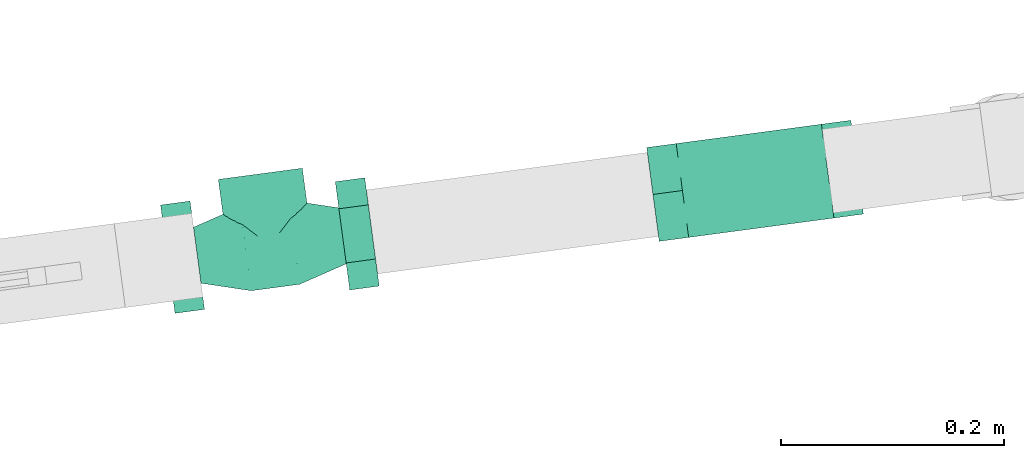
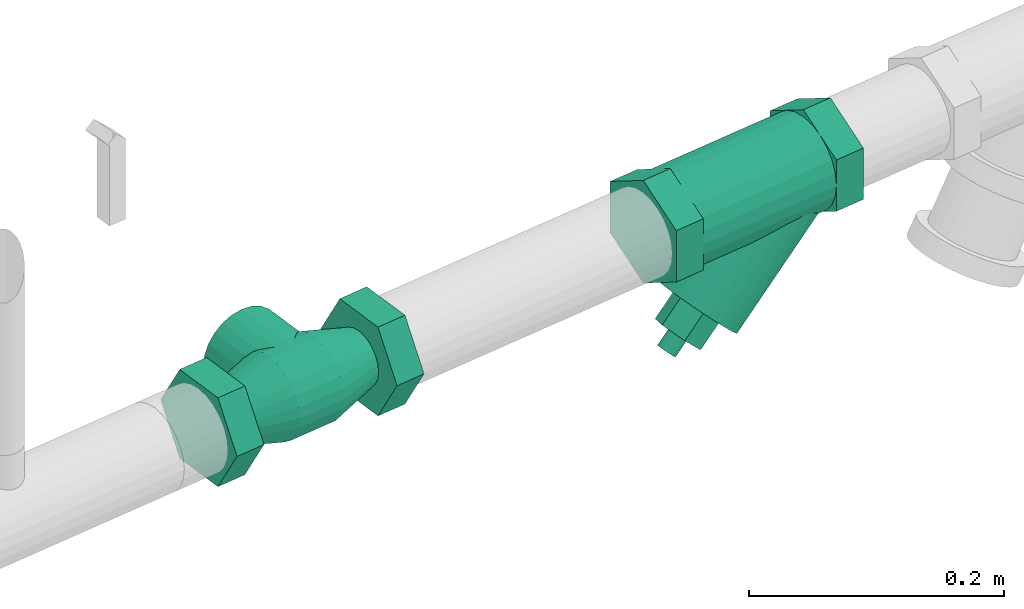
# One storey, part 326 of 374: 1 distribution control element, 1 flow controller.
"""IFC2X3 building model written with IfcOpenShell, lengths in metres."""

from ifc_helpers import new_model, si_unit, direction, origin, place, context, subcontext, project, spatial, open_shell, surface_model, source, transform, mapped, element, save


model = new_model("IFC2X3")

# Units and contexts
model_context = context("Model", 3, precision=1e-05, world=origin(), true_north=direction((-0.4480736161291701, 0.8939966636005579)))
body_context = subcontext(model_context, "Body", "Model", "MODEL_VIEW")
ifc_project = project(units=[si_unit("LENGTHUNIT", "METRE"), si_unit("AREAUNIT", "SQUARE_METRE"), si_unit("VOLUMEUNIT", "CUBIC_METRE"), si_unit("PLANEANGLEUNIT", "RADIAN"), si_unit("THERMODYNAMICTEMPERATUREUNIT", "KELVIN"), si_unit("MASSUNIT", "GRAM", prefix="KILO"), si_unit("TIMEUNIT", "SECOND")], contexts=[model_context])

# Site, building, storey
site_placement = place(None, origin())
site = spatial("IfcSite", under=ifc_project, at=site_placement, Name="Site 1", CompositionType="ELEMENT")
building_placement = place(site_placement, origin())
building = spatial("IfcBuilding", under=site, at=building_placement, Name="Undefined", CompositionType="ELEMENT")
storey_placement = place(building_placement, origin())
storey = spatial("IfcBuildingStorey", under=building, at=storey_placement, Name="Rez de chauss\x8ee", CompositionType="ELEMENT", Elevation=0.0)

# Flow controller
shared_shape_1 = source(origin(), body_context, "Body", "SurfaceModel", [
    surface_model("IfcFaceBasedSurfaceModel", [(0.0, 0.0, 0.0), (0.04907477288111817, 0.0, 0.0), (0.04907477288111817, 0.026699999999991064, 0.0), (0.0, 0.026699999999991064, 0.0), (-0.02453738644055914, 1.4210854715e-14, -0.042499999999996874), (-0.02453738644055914, 0.026699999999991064, -0.042500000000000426), (0.0, 0.0, -0.08500000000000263), (0.0, 0.026699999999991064, -0.0850000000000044), (0.04907477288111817, 0.0, -0.08500000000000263), (0.04907477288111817, 0.026699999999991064, -0.0850000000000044), (0.0736121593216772, 1.4210854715e-14, -0.042499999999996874), (0.0736121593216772, 0.026699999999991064, -0.042500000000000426), (0.06703738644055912, 0.13432165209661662, -0.042500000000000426), (0.06588065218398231, 0.13133135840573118, -0.0326519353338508), (0.09248630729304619, 0.15793701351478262, -0.0326519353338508), (0.09156952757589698, 0.15885379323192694, -0.0425000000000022), (0.06254132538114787, 0.12261630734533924, -0.023475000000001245), (0.09517416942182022, 0.15524915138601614, -0.023475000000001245), (0.057436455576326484, 0.10895989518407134, -0.015594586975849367), (0.09944994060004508, 0.1509733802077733, -0.015594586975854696), (0.05137761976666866, 0.09175647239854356, -0.00954773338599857), (0.10502223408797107, 0.14540108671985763, -0.009547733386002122), (0.04587823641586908, 0.07327894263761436, -0.005746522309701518), (0.11151130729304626, 0.13891201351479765, -0.005746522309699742), (0.0434700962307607, 0.056943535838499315, -0.004450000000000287), (0.11847494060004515, 0.1319483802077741, -0.004450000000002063), (0.04587823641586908, 0.04542440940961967, -0.005746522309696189), (0.12543857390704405, 0.1249847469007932, -0.005746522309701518), (0.05137761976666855, 0.037945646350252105, -0.009547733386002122), (0.13192764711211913, 0.118495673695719, -0.009547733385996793), (0.057436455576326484, 0.03285989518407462, -0.015594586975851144), (0.13749994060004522, 0.11292338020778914, -0.01559458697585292), (0.06254132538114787, 0.02941322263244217, -0.023474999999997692), (0.1417757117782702, 0.10864760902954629, -0.02347500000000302), (0.06588065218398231, 0.02737682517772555, -0.032651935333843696), (0.14446357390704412, 0.1059597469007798, -0.03265193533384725), (0.06703738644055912, 0.026699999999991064, -0.042499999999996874), (0.14538035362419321, 0.10504296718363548, -0.042499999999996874), (0.06588065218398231, 0.02737682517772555, -0.052348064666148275), (0.14446357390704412, 0.1059597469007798, -0.05234806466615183), (0.06254132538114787, 0.02941322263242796, -0.06152499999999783), (0.1417757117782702, 0.1086476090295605, -0.06152500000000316), (0.057436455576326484, 0.032859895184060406, -0.06940541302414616), (0.13749994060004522, 0.11292338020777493, -0.06940541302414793), (0.05137761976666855, 0.037945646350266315, -0.07545226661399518), (0.13192764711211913, 0.1184956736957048, -0.07545226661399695), (0.04587823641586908, 0.04542440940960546, -0.07925347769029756), (0.12543857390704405, 0.12498474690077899, -0.07925347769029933), (0.0434700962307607, 0.056943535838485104, -0.08055000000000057), (0.11847494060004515, 0.13194838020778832, -0.08055000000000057), (0.04587823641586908, 0.07327894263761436, -0.07925347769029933), (0.11151130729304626, 0.13891201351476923, -0.07925347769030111), (0.05137761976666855, 0.09175647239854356, -0.07545226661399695), (0.10502223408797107, 0.14540108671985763, -0.07545226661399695), (0.057436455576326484, 0.10895989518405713, -0.06940541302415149), (0.09944994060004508, 0.1509733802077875, -0.06940541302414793), (0.06254132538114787, 0.12261630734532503, -0.061525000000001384), (0.09517416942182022, 0.15524915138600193, -0.06152499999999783), (0.06588065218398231, 0.13133135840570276, -0.052348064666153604), (0.09248630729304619, 0.15793701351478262, -0.05234806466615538), (0.024537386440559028, 0.026699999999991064, -0.08500000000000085), (0.013537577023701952, 0.026700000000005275, -0.08355184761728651), (0.013537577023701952, 0.158299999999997, -0.08355184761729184), (0.024537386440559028, 0.158299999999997, -0.08500000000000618), (0.003287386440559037, 0.026699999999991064, -0.07930607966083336), (0.003287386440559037, 0.158299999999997, -0.07930607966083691), (-0.005514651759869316, 0.026700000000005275, -0.07255203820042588), (-0.005514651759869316, 0.158299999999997, -0.07255203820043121), (-0.01226869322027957, 0.026700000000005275, -0.06374999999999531), (-0.01226869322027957, 0.158299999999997, -0.06375000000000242), (-0.01651446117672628, 0.026700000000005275, -0.05349980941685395), (-0.01651446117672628, 0.1582999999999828, -0.05349980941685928), (-0.017962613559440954, 0.026699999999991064, -0.042499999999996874), (-0.017962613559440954, 0.158299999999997, -0.0425000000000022), (-0.01651446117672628, 0.026699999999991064, -0.031500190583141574), (-0.01651446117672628, 0.1583000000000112, -0.03150019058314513), (-0.012268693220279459, 0.026699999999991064, -0.021249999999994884), (-0.012268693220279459, 0.158299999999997, -0.021250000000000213), (-0.005514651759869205, 0.026700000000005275, -0.012447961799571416), (-0.005514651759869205, 0.1583000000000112, -0.012447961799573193), (0.003287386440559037, 0.026700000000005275, -0.005693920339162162), (0.003287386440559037, 0.1583000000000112, -0.005693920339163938), (0.013537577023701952, 0.026699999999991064, -0.0014481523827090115), (0.013537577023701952, 0.158299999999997, -0.001448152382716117), (0.024537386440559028, 0.026700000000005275, 5.329070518e-15), (0.024537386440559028, 0.158299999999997, 0.0), (0.035537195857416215, 0.026699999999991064, -0.0014481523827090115), (0.035537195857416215, 0.158299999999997, -0.001448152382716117), (0.04578738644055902, 0.026700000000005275, -0.005693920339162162), (0.04578738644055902, 0.1583000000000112, -0.005693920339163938), (0.05458942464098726, 0.026700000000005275, -0.012447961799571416), (0.05458942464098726, 0.1583000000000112, -0.012447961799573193), (0.06134346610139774, 0.026699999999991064, -0.021249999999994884), (0.06134346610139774, 0.158299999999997, -0.021250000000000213), (0.06558923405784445, 0.026699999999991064, -0.031500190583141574), (0.06558923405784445, 0.1583000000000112, -0.03150019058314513), (0.06703738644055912, 0.158299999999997, -0.0425000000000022), (0.06558923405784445, 0.026700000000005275, -0.05349980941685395), (0.06558923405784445, 0.1582999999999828, -0.05349980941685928), (0.061343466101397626, 0.026700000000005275, -0.06374999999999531), (0.061343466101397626, 0.158299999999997, -0.06375000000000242), (0.05458942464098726, 0.026700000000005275, -0.07255203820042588), (0.05458942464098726, 0.158299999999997, -0.07255203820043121), (0.04578738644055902, 0.026699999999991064, -0.07930607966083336), (0.04578738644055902, 0.158299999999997, -0.07930607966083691), (0.035537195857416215, 0.026700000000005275, -0.08355184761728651), (0.035537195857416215, 0.158299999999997, -0.08355184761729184), (0.13735469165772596, 0.15082813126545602, -0.05100000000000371), (0.13579908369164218, 0.1523837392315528, -0.05071036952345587), (0.1469713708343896, 0.16355602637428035, -0.05071036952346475), (0.14852697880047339, 0.162000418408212, -0.051000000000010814), (0.13434948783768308, 0.15383333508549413, -0.049861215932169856), (0.1455217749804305, 0.1650056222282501, -0.04986121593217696), (0.13310469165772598, 0.155078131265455, -0.04851040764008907), (0.1442769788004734, 0.16625041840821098, -0.04851040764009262), (0.13214952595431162, 0.1560332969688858, -0.046750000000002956), (0.14332181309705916, 0.16720558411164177, -0.04675000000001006), (0.1315490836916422, 0.15663373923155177, -0.04469996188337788), (0.14272137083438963, 0.16780602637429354, -0.04469996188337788), (0.1313442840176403, 0.15683853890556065, -0.042500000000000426), (0.14251657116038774, 0.16801082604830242, -0.04250000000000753), (0.1315490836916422, 0.15663373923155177, -0.04030003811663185), (0.14272137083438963, 0.16780602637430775, -0.040300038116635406), (0.13214952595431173, 0.1560332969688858, -0.03824999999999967), (0.14332181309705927, 0.16720558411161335, -0.038250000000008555), (0.13310469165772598, 0.1550781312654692, -0.036489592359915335), (0.1442769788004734, 0.16625041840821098, -0.03648959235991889), (0.13434948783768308, 0.15383333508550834, -0.03513878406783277), (0.1455217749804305, 0.1650056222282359, -0.035138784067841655), (0.13579908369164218, 0.1523837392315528, -0.03428963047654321), (0.1469713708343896, 0.16355602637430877, -0.03428963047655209), (0.13735469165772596, 0.15082813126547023, -0.034000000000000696), (0.14852697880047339, 0.162000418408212, -0.03400000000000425), (0.13891029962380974, 0.14927252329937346, -0.03428963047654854), (0.15008258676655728, 0.16044481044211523, -0.03428963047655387), (0.14035989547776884, 0.14782292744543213, -0.03513878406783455), (0.15153218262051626, 0.15899521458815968, -0.0351387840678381), (0.14160469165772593, 0.14657813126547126, -0.036489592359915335), (0.15277697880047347, 0.15775041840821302, -0.03648959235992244), (0.1425598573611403, 0.14562296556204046, -0.03825000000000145), (0.15373214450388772, 0.15679525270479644, -0.038250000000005), (0.14316029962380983, 0.14502252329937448, -0.04030003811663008), (0.15433258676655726, 0.15619481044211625, -0.04030003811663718), (0.1433650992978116, 0.1448177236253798, -0.0425000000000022), (0.15453738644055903, 0.15599001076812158, -0.04250000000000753), (0.14316029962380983, 0.14502252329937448, -0.044699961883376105), (0.15433258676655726, 0.15619481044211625, -0.04469996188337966), (0.1425598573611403, 0.14562296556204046, -0.046750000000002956), (0.15373214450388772, 0.15679525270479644, -0.046750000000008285), (0.14160469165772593, 0.14657813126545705, -0.04851040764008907), (0.15277697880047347, 0.1577504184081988, -0.048510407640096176), (0.14035989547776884, 0.14782292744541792, -0.04986121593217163), (0.15153218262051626, 0.15899521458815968, -0.04986121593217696), (0.13891029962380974, 0.14927252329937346, -0.05071036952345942), (0.15008258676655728, 0.16044481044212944, -0.05071036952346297), (0.13735469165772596, 0.15082813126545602, -0.04250000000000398), (0.14852697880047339, 0.162000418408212, -0.04250000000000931), (0.12958776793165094, 0.1585950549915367, -0.023475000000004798), (0.12182084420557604, 0.16636197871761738, -0.042500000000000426), (0.10294109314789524, 0.14748222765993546, -0.0425000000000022), (0.11070801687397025, 0.13971530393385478, -0.02347500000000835), (0.14512161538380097, 0.14306120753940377, -0.02347500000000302), (0.12624186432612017, 0.12418145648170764, -0.023475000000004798), (0.152888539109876, 0.13529428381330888, -0.0425000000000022), (0.13400878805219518, 0.11641453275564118, -0.0425000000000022), (0.14512161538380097, 0.14306120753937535, -0.061525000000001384), (0.12624186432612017, 0.12418145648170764, -0.061525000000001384), (0.12958776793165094, 0.1585950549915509, -0.06152499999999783), (0.11070801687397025, 0.139715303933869, -0.06152499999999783), (0.0, 0.158299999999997, -7.105427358e-15), (0.04907477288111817, 0.158299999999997, -7.105427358e-15), (0.04907477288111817, 0.18500000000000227, -7.105427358e-15), (0.0, 0.18500000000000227, -7.105427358e-15), (-0.02453738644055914, 0.158299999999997, -0.0425000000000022), (-0.02453738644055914, 0.18499999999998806, -0.04250000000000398), (0.0, 0.1583000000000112, -0.08500000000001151), (0.0, 0.18499999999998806, -0.08500000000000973), (0.04907477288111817, 0.1583000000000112, -0.08500000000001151), (0.04907477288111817, 0.18499999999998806, -0.08500000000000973), (0.0736121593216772, 0.158299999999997, -0.0425000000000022), (0.0736121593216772, 0.18499999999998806, -0.04250000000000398)], [open_shell([[[0, 1, 2, 3]], [[4, 0, 3, 5]], [[6, 4, 5, 7]], [[8, 6, 7, 9]], [[10, 8, 9, 11]], [[1, 10, 11, 2]], [[1, 0, 4]], [[1, 4, 6]], [[1, 6, 8]], [[1, 8, 10]], [[2, 5, 3]], [[2, 7, 5]], [[2, 9, 7]], [[2, 11, 9]], [[12, 13, 14, 15]], [[13, 16, 17, 14]], [[16, 18, 19, 17]], [[18, 20, 21, 19]], [[20, 22, 23, 21]], [[22, 24, 25, 23]], [[24, 26, 27, 25]], [[26, 28, 29, 27]], [[28, 30, 31, 29]], [[30, 32, 33, 31]], [[32, 34, 35, 33]], [[34, 36, 37, 35]], [[36, 38, 39, 37]], [[38, 40, 41, 39]], [[40, 42, 43, 41]], [[42, 44, 45, 43]], [[44, 46, 47, 45]], [[46, 48, 49, 47]], [[48, 50, 51, 49]], [[50, 52, 53, 51]], [[52, 54, 55, 53]], [[54, 56, 57, 55]], [[56, 58, 59, 57]], [[58, 12, 15, 59]], [[57, 59, 15]], [[55, 57, 15]], [[53, 55, 15]], [[51, 53, 15]], [[49, 51, 15]], [[47, 49, 15]], [[45, 47, 15]], [[43, 45, 15]], [[41, 43, 15]], [[39, 41, 15]], [[37, 39, 15]], [[35, 37, 15]], [[33, 35, 15]], [[31, 33, 15]], [[29, 31, 15]], [[27, 29, 15]], [[25, 27, 15]], [[23, 25, 15]], [[21, 23, 15]], [[19, 21, 15]], [[17, 19, 15]], [[14, 17, 15]], [[60, 61, 62, 63]], [[61, 64, 65, 62]], [[64, 66, 67, 65]], [[66, 68, 69, 67]], [[68, 70, 71, 69]], [[70, 72, 73, 71]], [[72, 74, 75, 73]], [[74, 76, 77, 75]], [[76, 78, 79, 77]], [[78, 80, 81, 79]], [[80, 82, 83, 81]], [[82, 84, 85, 83]], [[84, 86, 87, 85]], [[86, 88, 89, 87]], [[88, 90, 91, 89]], [[90, 92, 93, 91]], [[92, 94, 95, 93]], [[94, 36, 96, 95]], [[36, 97, 98, 96]], [[97, 99, 100, 98]], [[99, 101, 102, 100]], [[101, 103, 104, 102]], [[103, 105, 106, 104]], [[105, 60, 63, 106]], [[107, 108, 109, 110]], [[108, 111, 112, 109]], [[111, 113, 114, 112]], [[113, 115, 116, 114]], [[115, 117, 118, 116]], [[117, 119, 120, 118]], [[119, 121, 122, 120]], [[121, 123, 124, 122]], [[123, 125, 126, 124]], [[125, 127, 128, 126]], [[127, 129, 130, 128]], [[129, 131, 132, 130]], [[131, 133, 134, 132]], [[133, 135, 136, 134]], [[135, 137, 138, 136]], [[137, 139, 140, 138]], [[139, 141, 142, 140]], [[141, 143, 144, 142]], [[143, 145, 146, 144]], [[145, 147, 148, 146]], [[147, 149, 150, 148]], [[149, 151, 152, 150]], [[151, 153, 154, 152]], [[153, 107, 110, 154]], [[155, 108, 107]], [[155, 111, 108]], [[155, 113, 111]], [[155, 115, 113]], [[155, 117, 115]], [[155, 119, 117]], [[155, 121, 119]], [[155, 123, 121]], [[155, 125, 123]], [[155, 127, 125]], [[155, 129, 127]], [[155, 131, 129]], [[155, 133, 131]], [[155, 135, 133]], [[155, 137, 135]], [[155, 139, 137]], [[155, 141, 139]], [[155, 143, 141]], [[155, 145, 143]], [[155, 147, 145]], [[155, 149, 147]], [[155, 151, 149]], [[155, 153, 151]], [[155, 107, 153]], [[156, 154, 110]], [[156, 152, 154]], [[156, 150, 152]], [[156, 148, 150]], [[156, 146, 148]], [[156, 144, 146]], [[156, 142, 144]], [[156, 140, 142]], [[156, 138, 140]], [[156, 136, 138]], [[156, 134, 136]], [[156, 132, 134]], [[156, 130, 132]], [[156, 128, 130]], [[156, 126, 128]], [[156, 124, 126]], [[156, 122, 124]], [[156, 120, 122]], [[156, 118, 120]], [[156, 116, 118]], [[156, 114, 116]], [[156, 112, 114]], [[156, 109, 112]], [[156, 110, 109]], [[157, 158, 159, 160]], [[161, 157, 160, 162]], [[163, 161, 162, 164]], [[165, 163, 164, 166]], [[167, 165, 166, 168]], [[158, 167, 168, 159]], [[158, 157, 161]], [[158, 161, 163]], [[158, 163, 165]], [[158, 165, 167]], [[169, 170, 171, 172]], [[173, 169, 172, 174]], [[175, 173, 174, 176]], [[177, 175, 176, 178]], [[179, 177, 178, 180]], [[170, 179, 180, 171]], [[170, 169, 173]], [[170, 173, 175]], [[170, 175, 177]], [[170, 177, 179]], [[171, 174, 172]], [[171, 176, 174]], [[171, 178, 176]], [[171, 180, 178]]])]),
])
flow_controller_placement = place(storey_placement, origin())
element("IfcFlowController", 1, at=flow_controller_placement, inside=storey, Name="Clapet de retenue", ObjectType="Clapet de retenue", context=body_context, shape_type="MappedRepresentation", body=[
    mapped(shared_shape_1, transform((66.90038286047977, 20.50879483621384, 0.7249702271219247), x_axis=(0.0, 0.0, -1.0), y_axis=(-0.9912155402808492, -0.13225639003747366, 0.0), z_axis=(-0.13225639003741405, 0.9912155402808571, 0.0))),
])

# Distribution control element
shared_shape_2 = source(origin(), body_context, "Body", "SurfaceModel", [
    surface_model("IfcFaceBasedSurfaceModel", [(0.0, 0.0, 0.0), (0.04907477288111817, 0.0, 0.0), (0.04907477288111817, 0.026699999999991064, 0.0), (0.0, 0.026699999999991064, 0.0), (-0.02453738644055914, 1.4210854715e-14, -0.042499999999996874), (-0.02453738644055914, 0.026699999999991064, -0.042500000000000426), (0.0, 0.0, -0.08500000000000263), (0.0, 0.026699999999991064, -0.0850000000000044), (0.04907477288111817, 0.0, -0.08500000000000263), (0.04907477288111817, 0.026699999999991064, -0.0850000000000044), (0.0736121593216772, 1.4210854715e-14, -0.042499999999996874), (0.0736121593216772, 0.026699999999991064, -0.042500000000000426), (-0.000829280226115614, 0.026700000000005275, -0.04249999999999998), (3.506798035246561e-05, 0.026699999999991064, -0.03593462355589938), (-0.012216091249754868, 0.07056666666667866, -0.03265193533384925), (-0.013512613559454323, 0.07056666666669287, -0.04249999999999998), (0.002569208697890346, 0.026699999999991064, -0.029816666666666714), (-0.008414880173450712, 0.07056666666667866, -0.023475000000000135), (0.0066004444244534, 0.026699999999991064, -0.024563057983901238), (-0.00236802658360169, 0.07056666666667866, -0.01559458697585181), (0.01185405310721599, 0.026700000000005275, -0.020531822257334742), (0.005512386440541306, 0.07056666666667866, -0.009547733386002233), (0.017972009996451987, 0.026699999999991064, -0.017997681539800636), (0.014689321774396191, 0.07056666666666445, -0.005746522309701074), (0.024537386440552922, 0.026700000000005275, -0.017133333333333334), (0.024537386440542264, 0.07056666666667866, -0.004450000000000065), (0.03110276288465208, 0.026700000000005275, -0.017997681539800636), (0.03438545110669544, 0.07056666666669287, -0.005746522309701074), (0.0372207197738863, 0.026700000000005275, -0.020531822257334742), (0.04356238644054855, 0.07056666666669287, -0.009547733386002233), (0.04247432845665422, 0.026700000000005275, -0.024563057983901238), (0.05144279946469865, 0.07056666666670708, -0.01559458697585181), (0.046505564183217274, 0.026700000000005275, -0.029816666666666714), (0.05748965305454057, 0.07056666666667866, -0.023475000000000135), (0.049039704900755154, 0.026700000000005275, -0.03593462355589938), (0.06129086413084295, 0.07056666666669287, -0.03265193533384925), (0.049904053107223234, 0.026700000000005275, -0.04249999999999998), (0.06258738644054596, 0.07056666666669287, -0.04249999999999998), (0.049039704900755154, 0.026700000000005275, -0.049065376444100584), (0.06129086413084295, 0.07056666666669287, -0.05234806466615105), (0.046505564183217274, 0.026700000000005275, -0.05518333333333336), (0.05748965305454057, 0.07056666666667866, -0.06152500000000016), (0.04247432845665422, 0.026700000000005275, -0.06043694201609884), (0.05144279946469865, 0.07056666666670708, -0.06940541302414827), (0.0372207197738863, 0.026700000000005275, -0.06446817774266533), (0.04356238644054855, 0.07056666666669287, -0.07545226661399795), (0.03110276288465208, 0.026700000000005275, -0.06700231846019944), (0.03438545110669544, 0.07056666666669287, -0.07925347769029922), (0.024537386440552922, 0.026700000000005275, -0.06786666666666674), (0.024537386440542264, 0.07056666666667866, -0.08055000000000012), (0.017972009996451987, 0.026699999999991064, -0.06700231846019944), (0.014689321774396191, 0.07056666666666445, -0.07925347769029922), (0.01185405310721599, 0.026700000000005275, -0.06446817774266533), (0.005512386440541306, 0.07056666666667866, -0.07545226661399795), (0.0066004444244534, 0.026699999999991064, -0.06043694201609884), (-0.00236802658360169, 0.07056666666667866, -0.06940541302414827), (0.002569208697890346, 0.026699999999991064, -0.05518333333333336), (-0.008414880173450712, 0.07056666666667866, -0.06152500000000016), (3.506798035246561e-05, 0.026699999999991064, -0.049065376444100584), (-0.012216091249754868, 0.07056666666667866, -0.05234806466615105), (0.014689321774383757, 0.11443333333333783, -0.07925347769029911), (0.02453738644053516, 0.11443333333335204, -0.08055000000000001), (0.0055123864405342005, 0.11443333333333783, -0.07545226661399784), (-0.002368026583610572, 0.11443333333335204, -0.06940541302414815), (-0.00841488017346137, 0.11443333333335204, -0.06152500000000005), (-0.012216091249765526, 0.11443333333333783, -0.05234806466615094), (-0.013512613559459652, 0.11443333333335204, -0.04249999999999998), (-0.012216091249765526, 0.11443333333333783, -0.032651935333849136), (-0.00841488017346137, 0.11443333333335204, -0.023475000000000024), (-0.002368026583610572, 0.11443333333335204, -0.01559458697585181), (0.0055123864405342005, 0.11443333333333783, -0.009547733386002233), (0.014689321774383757, 0.11443333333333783, -0.005746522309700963), (0.02453738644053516, 0.11443333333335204, -0.004450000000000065), (0.034385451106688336, 0.11443333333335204, -0.005746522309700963), (0.04356238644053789, 0.11443333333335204, -0.009547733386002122), (0.051442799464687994, 0.11443333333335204, -0.01559458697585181), (0.05748965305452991, 0.11443333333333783, -0.023475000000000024), (0.061290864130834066, 0.11443333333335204, -0.032651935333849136), (0.06258738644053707, 0.11443333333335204, -0.04249999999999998), (0.061290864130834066, 0.11443333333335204, -0.05234806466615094), (0.05748965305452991, 0.11443333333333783, -0.06152500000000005), (0.051442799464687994, 0.11443333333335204, -0.06940541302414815), (0.04356238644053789, 0.11443333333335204, -0.07545226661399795), (0.034385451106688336, 0.11443333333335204, -0.07925347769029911), (3.5067980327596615e-05, 0.158299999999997, -0.03593462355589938), (-0.000829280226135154, 0.1583000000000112, -0.04249999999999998), (0.0025692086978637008, 0.15830000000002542, -0.029816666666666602), (0.006600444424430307, 0.1583000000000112, -0.024563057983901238), (0.011854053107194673, 0.15830000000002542, -0.020531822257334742), (0.017972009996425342, 0.1583000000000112, -0.017997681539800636), (0.024537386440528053, 0.15830000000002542, -0.017133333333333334), (0.03110276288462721, 0.1583000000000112, -0.017997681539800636), (0.037220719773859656, 0.15830000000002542, -0.02053182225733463), (0.0424743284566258, 0.1583000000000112, -0.024563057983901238), (0.04650556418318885, 0.1583000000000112, -0.029816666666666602), (0.04903970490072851, 0.15830000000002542, -0.03593462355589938), (0.049904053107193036, 0.1583000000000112, -0.04249999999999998), (0.04903970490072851, 0.15830000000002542, -0.049065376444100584), (0.04650556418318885, 0.1583000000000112, -0.05518333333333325), (0.0424743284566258, 0.1583000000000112, -0.06043694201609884), (0.037220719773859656, 0.15830000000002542, -0.06446817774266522), (0.03110276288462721, 0.1583000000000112, -0.06700231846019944), (0.024537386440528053, 0.15830000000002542, -0.06786666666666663), (0.017972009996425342, 0.1583000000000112, -0.06700231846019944), (0.011854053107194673, 0.15830000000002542, -0.06446817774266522), (0.006600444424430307, 0.1583000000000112, -0.06043694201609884), (0.0025692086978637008, 0.15830000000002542, -0.05518333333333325), (3.5067980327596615e-05, 0.158299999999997, -0.049065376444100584), (0.024537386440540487, 0.09250000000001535, -0.08055000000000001), (0.024537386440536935, 0.10234806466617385, -0.07925347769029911), (0.08953738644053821, 0.10234806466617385, -0.07925347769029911), (0.08953738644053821, 0.09250000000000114, -0.08055000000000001), (0.024537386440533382, 0.11152500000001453, -0.07545226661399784), (0.08953738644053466, 0.11152500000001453, -0.07545226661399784), (0.024537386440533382, 0.11940541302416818, -0.06940541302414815), (0.08953738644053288, 0.11940541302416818, -0.06940541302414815), (0.024537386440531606, 0.12545226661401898, -0.06152500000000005), (0.08953738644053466, 0.12545226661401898, -0.06152500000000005), (0.02453738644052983, 0.12925347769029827, -0.05234806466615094), (0.08953738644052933, 0.12925347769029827, -0.05234806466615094), (0.02453738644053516, 0.1305500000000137, -0.04249999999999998), (0.08953738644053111, 0.1305500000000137, -0.04249999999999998), (0.02453738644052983, 0.12925347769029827, -0.032651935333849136), (0.08953738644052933, 0.12925347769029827, -0.032651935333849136), (0.024537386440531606, 0.12545226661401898, -0.023475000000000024), (0.08953738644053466, 0.12545226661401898, -0.023475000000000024), (0.024537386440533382, 0.11940541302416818, -0.01559458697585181), (0.08953738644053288, 0.11940541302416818, -0.01559458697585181), (0.024537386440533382, 0.11152500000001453, -0.009547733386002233), (0.08953738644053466, 0.11152500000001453, -0.009547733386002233), (0.024537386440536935, 0.10234806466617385, -0.005746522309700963), (0.08953738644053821, 0.10234806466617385, -0.005746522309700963), (0.024537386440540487, 0.09250000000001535, -0.004450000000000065), (0.08953738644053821, 0.09250000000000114, -0.004450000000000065), (0.024537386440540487, 0.08265193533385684, -0.005746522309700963), (0.08953738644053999, 0.08265193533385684, -0.005746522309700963), (0.02453738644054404, 0.07347500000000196, -0.009547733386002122), (0.08953738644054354, 0.07347500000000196, -0.009547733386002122), (0.02453738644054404, 0.0655945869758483, -0.01559458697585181), (0.0895373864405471, 0.06559458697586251, -0.01559458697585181), (0.02453738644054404, 0.059547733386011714, -0.023475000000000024), (0.08953738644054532, 0.059547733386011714, -0.023475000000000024), (0.024537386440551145, 0.055746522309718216, -0.032651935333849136), (0.0895373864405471, 0.055746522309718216, -0.032651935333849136), (0.02453738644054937, 0.054450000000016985, -0.04249999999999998), (0.0895373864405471, 0.054450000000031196, -0.04249999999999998), (0.024537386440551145, 0.055746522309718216, -0.05234806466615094), (0.0895373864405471, 0.055746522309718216, -0.05234806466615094), (0.02453738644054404, 0.059547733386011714, -0.06152500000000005), (0.08953738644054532, 0.059547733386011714, -0.06152500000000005), (0.02453738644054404, 0.0655945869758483, -0.06940541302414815), (0.0895373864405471, 0.06559458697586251, -0.06940541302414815), (0.02453738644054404, 0.07347500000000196, -0.07545226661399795), (0.08953738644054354, 0.07347500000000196, -0.07545226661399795), (0.024537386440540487, 0.08265193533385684, -0.07925347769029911), (0.08953738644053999, 0.08265193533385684, -0.07925347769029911), (0.08953738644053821, 0.09250000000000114, -0.04249999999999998), (0.0, 0.158299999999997, -7.105427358e-15), (0.04907477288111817, 0.158299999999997, -7.105427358e-15), (0.04907477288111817, 0.18500000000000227, -7.105427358e-15), (0.0, 0.18500000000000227, -7.105427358e-15), (-0.02453738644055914, 0.158299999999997, -0.0425000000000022), (-0.02453738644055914, 0.18499999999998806, -0.04250000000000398), (0.0, 0.1583000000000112, -0.08500000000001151), (0.0, 0.18499999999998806, -0.08500000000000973), (0.04907477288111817, 0.1583000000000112, -0.08500000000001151), (0.04907477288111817, 0.18499999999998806, -0.08500000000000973), (0.0736121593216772, 0.158299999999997, -0.0425000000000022), (0.0736121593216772, 0.18499999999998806, -0.04250000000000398)], [open_shell([[[0, 1, 2, 3]], [[4, 0, 3, 5]], [[6, 4, 5, 7]], [[8, 6, 7, 9]], [[10, 8, 9, 11]], [[1, 10, 11, 2]], [[1, 0, 4]], [[1, 4, 6]], [[1, 6, 8]], [[1, 8, 10]], [[2, 5, 3]], [[2, 7, 5]], [[2, 9, 7]], [[2, 11, 9]], [[12, 13, 14, 15]], [[13, 16, 17, 14]], [[16, 18, 19, 17]], [[18, 20, 21, 19]], [[20, 22, 23, 21]], [[22, 24, 25, 23]], [[24, 26, 27, 25]], [[26, 28, 29, 27]], [[28, 30, 31, 29]], [[30, 32, 33, 31]], [[32, 34, 35, 33]], [[34, 36, 37, 35]], [[36, 38, 39, 37]], [[38, 40, 41, 39]], [[40, 42, 43, 41]], [[42, 44, 45, 43]], [[44, 46, 47, 45]], [[46, 48, 49, 47]], [[48, 50, 51, 49]], [[50, 52, 53, 51]], [[52, 54, 55, 53]], [[54, 56, 57, 55]], [[56, 58, 59, 57]], [[58, 12, 15, 59]], [[49, 51, 60, 61]], [[51, 53, 62, 60]], [[53, 55, 63, 62]], [[55, 57, 64, 63]], [[57, 59, 65, 64]], [[59, 15, 66, 65]], [[15, 14, 67, 66]], [[14, 17, 68, 67]], [[17, 19, 69, 68]], [[19, 21, 70, 69]], [[21, 23, 71, 70]], [[23, 25, 72, 71]], [[25, 27, 73, 72]], [[27, 29, 74, 73]], [[29, 31, 75, 74]], [[31, 33, 76, 75]], [[33, 35, 77, 76]], [[35, 37, 78, 77]], [[37, 39, 79, 78]], [[39, 41, 80, 79]], [[41, 43, 81, 80]], [[43, 45, 82, 81]], [[45, 47, 83, 82]], [[47, 49, 61, 83]], [[66, 67, 84, 85]], [[67, 68, 86, 84]], [[68, 69, 87, 86]], [[69, 70, 88, 87]], [[70, 71, 89, 88]], [[71, 72, 90, 89]], [[72, 73, 91, 90]], [[73, 74, 92, 91]], [[74, 75, 93, 92]], [[75, 76, 94, 93]], [[76, 77, 95, 94]], [[77, 78, 96, 95]], [[78, 79, 97, 96]], [[79, 80, 98, 97]], [[80, 81, 99, 98]], [[81, 82, 100, 99]], [[82, 83, 101, 100]], [[83, 61, 102, 101]], [[61, 60, 103, 102]], [[60, 62, 104, 103]], [[62, 63, 105, 104]], [[63, 64, 106, 105]], [[64, 65, 107, 106]], [[65, 66, 85, 107]], [[108, 109, 110, 111]], [[109, 112, 113, 110]], [[112, 114, 115, 113]], [[114, 116, 117, 115]], [[116, 118, 119, 117]], [[118, 120, 121, 119]], [[120, 122, 123, 121]], [[122, 124, 125, 123]], [[124, 126, 127, 125]], [[126, 128, 129, 127]], [[128, 130, 131, 129]], [[130, 132, 133, 131]], [[132, 134, 135, 133]], [[134, 136, 137, 135]], [[136, 138, 139, 137]], [[138, 140, 141, 139]], [[140, 142, 143, 141]], [[142, 144, 145, 143]], [[144, 146, 147, 145]], [[146, 148, 149, 147]], [[148, 150, 151, 149]], [[150, 152, 153, 151]], [[152, 154, 155, 153]], [[154, 108, 111, 155]], [[156, 155, 111]], [[156, 153, 155]], [[156, 151, 153]], [[156, 149, 151]], [[156, 147, 149]], [[156, 145, 147]], [[156, 143, 145]], [[156, 141, 143]], [[156, 139, 141]], [[156, 137, 139]], [[156, 135, 137]], [[156, 133, 135]], [[156, 131, 133]], [[156, 129, 131]], [[156, 127, 129]], [[156, 125, 127]], [[156, 123, 125]], [[156, 121, 123]], [[156, 119, 121]], [[156, 117, 119]], [[156, 115, 117]], [[156, 113, 115]], [[156, 110, 113]], [[156, 111, 110]], [[157, 158, 159, 160]], [[161, 157, 160, 162]], [[163, 161, 162, 164]], [[165, 163, 164, 166]], [[167, 165, 166, 168]], [[158, 167, 168, 159]], [[158, 157, 161]], [[158, 161, 163]], [[158, 163, 165]], [[158, 165, 167]], [[159, 162, 160]], [[159, 164, 162]], [[159, 166, 164]], [[159, 168, 166]]])]),
])
distribution_control_element_placement = place(storey_placement, origin())
element("IfcDistributionControlElement", 2, at=distribution_control_element_placement, inside=storey, Name="Compteur d'eau", ObjectType="Compteur d'eau", context=body_context, shape_type="MappedRepresentation", body=[
    mapped(shared_shape_2, transform((66.47356180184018, 20.38421325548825, 0.7429328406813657), x_axis=(-0.13225639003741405, 0.9912155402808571, 0.0), y_axis=(-0.9912155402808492, -0.13225639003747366, 0.0), z_axis=(0.0, 0.0, 1.0))),
])

save(model, "model.ifc")
